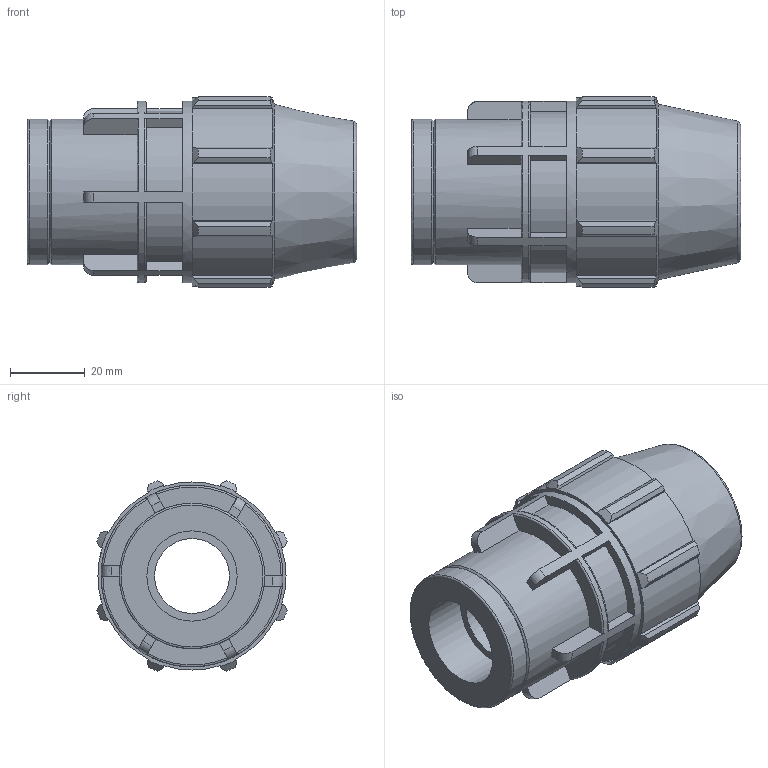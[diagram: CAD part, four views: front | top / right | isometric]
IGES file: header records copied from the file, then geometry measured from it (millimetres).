
Global section: file name: 0703G0025007__0703G60250070A.ipt; native system: Autodesk Inventor 2015; preprocessor: unknown; author: KIM; date: 20170606.133258; units: millimetre
Bounding box: 88 x 50.81 x 50.81 mm (x, y, z)
Volume: 93390.8 mm3; surface area: 24018.4 mm2
Topology: 1 solids, 1 shells, 148 faces, 413 edges, 277 vertices
Faces by surface type: plane 86, revolution 25, cylinder 25, cone 12
Full cylindrical faces by diameter (mm): 38.88 x2, 48.6 x1
